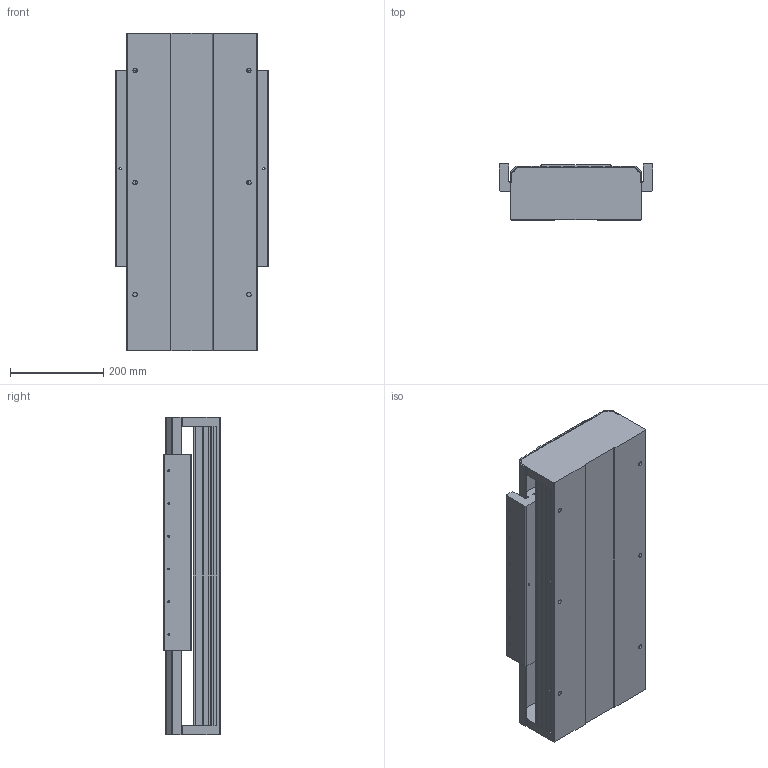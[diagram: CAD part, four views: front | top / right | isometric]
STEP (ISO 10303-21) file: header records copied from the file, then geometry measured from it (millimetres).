
FILE_DESCRIPTION (( 'STEP AP203' ), '1' );
FILE_NAME ('RF28-6-1-S.STEP', '2008-11-20T08:47:13', ( 'user' ), ( 'Robostar' ), 'SwSTEP 2.0', 'SolidWorks 2007', '' );
FILE_SCHEMA (( 'CONFIG_CONTROL_DESIGN' ));
Length unit declared in the file: millimetre
Products named in the file (1): RF28-6-1-S
Bounding box: 328 x 121 x 680 mm (x, y, z)
Volume: 9718726.6 mm3; surface area: 1915525.5 mm2
Topology: 3 solids, 6 shells, 508 faces, 1432 edges, 920 vertices
Faces by surface type: plane 296, cylinder 168, cone 44
Entity records: 16187 total; most frequent: CARTESIAN_POINT 2893, ORIENTED_EDGE 2784, DIRECTION 2750, EDGE_CURVE 1392, VECTOR 1004, LINE 1004, VERTEX_POINT 920, AXIS2_PLACEMENT_3D 873
